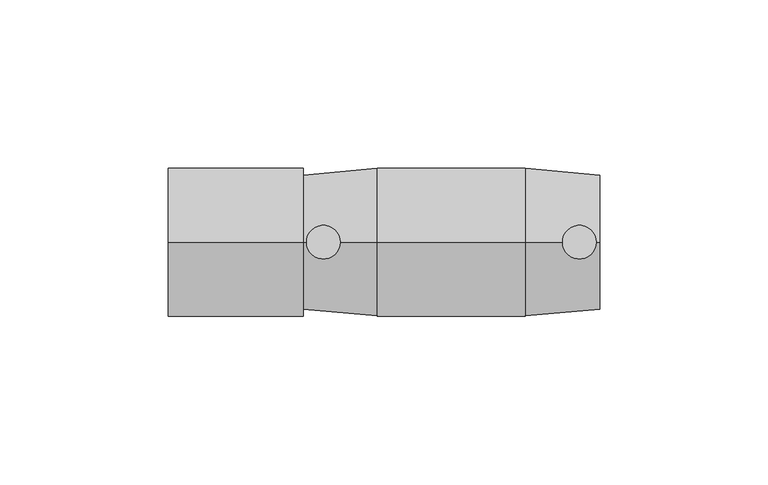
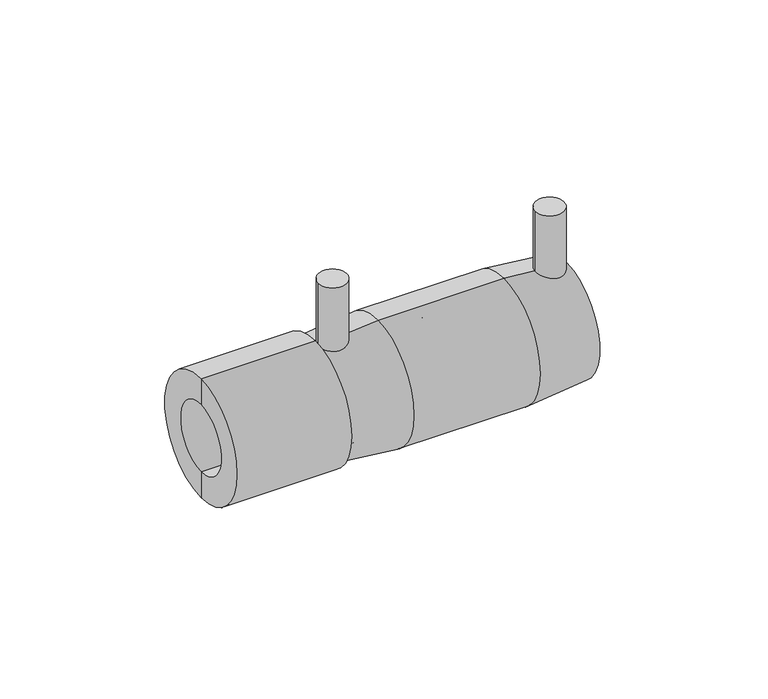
"""IFC4 building model written with IfcOpenShell, lengths in millimetres: pipe fitting geometry, Plumbing_Pipe-Fittings_Plasson_Female-Transition-Coupler_493104N : Plumbing_Pipe-Fittings_Plasson_Female-Transition-Coupler_493104N."""

from ifc_helpers import new_model, si_unit, point, frame, frame_2d, origin, place, context, project, spatial, polyline, circle_curve, trimmed, segment, composite_curve, outline, extrude, source, transform, mapped, element, save
from ifc_brep_helpers import plane_surface, cylinder_surface, revolved_surface, advanced_brep


def pipe_fitting_ef86ea76(model_context):
    return source(origin(), model_context, "Body", "SolidModel", [
        advanced_brep(
        [(-44.0, 0.0, -13.5), (-44.0, 0.0, 13.5), (-44.0, 0.0, 16.0), (-44.0, 0.0, -16.0), (-2.0, 0.0, -13.5), (-2.0, 0.0, 13.5), (-2.0, 0.0, -16.0), (-2.0, 0.0, 16.0)],
        [
            (0, 1, circle_curve(frame((-44.0, 0.0, 0.0), z_axis=(1.0, 0.0, 0.0), x_axis=(0.0, 0.0, 1.0)), 13.5)),
            (1, 2),
            (2, 3, circle_curve(frame((-44.0, 0.0, 0.0), z_axis=(-1.0, 0.0, 0.0), x_axis=(0.0, 0.0, 1.0)), 16.0)),
            (3, 0),
            (1, 0, circle_curve(frame((-44.0, 0.0, 0.0), z_axis=(1.0, 0.0, 0.0), x_axis=(0.0, 0.0, 1.0)), 13.5)),
            (3, 2, circle_curve(frame((-44.0, 0.0, 0.0), z_axis=(-1.0, 0.0, 0.0), x_axis=(0.0, 0.0, 1.0)), 16.0)),
            (4, 5, circle_curve(frame((-2.0, 0.0, 0.0), z_axis=(1.0, 0.0, 0.0), x_axis=(0.0, 0.0, 1.0)), 13.5)),
            (5, 1),
            (0, 4),
            (5, 4, circle_curve(frame((-2.0, 0.0, 0.0), z_axis=(1.0, 0.0, 0.0), x_axis=(0.0, 0.0, 1.0)), 13.5)),
            (6, 7, circle_curve(frame((-2.0, 0.0, 0.0), z_axis=(1.0, 0.0, 0.0), x_axis=(0.0, 0.0, 1.0)), 16.0)),
            (7, 5),
            (4, 6),
            (7, 6, circle_curve(frame((-2.0, 0.0, 0.0), z_axis=(1.0, 0.0, 0.0), x_axis=(0.0, 0.0, 1.0)), 16.0)),
            (2, 7),
            (6, 3),
        ],
        [
            plane_surface(frame((-44.0, 0.0, 0.0), z_axis=(-1.0, 0.0, 0.0), x_axis=(0.0, 0.0, 1.0))),
            revolved_surface(polyline([(-44.0, 0.0, 13.5), (-2.0, 0.0, 13.5)]), (-44.0, 0.0, 0.0), (-1.0, 0.0, 0.0)),
            plane_surface(frame((-2.0, 0.0, 0.0), z_axis=(1.0, 0.0, 0.0), x_axis=(0.0, 0.0, 1.0))),
            cylinder_surface(frame((-44.0, 0.0, 0.0), z_axis=(-1.0, 0.0, 0.0), x_axis=(0.0, 0.0, 1.0)), 16.0),
        ],
        [
            (0, [[1, 2, 3, 4]]),
            (0, [[5, -4, 6, -2]]),
            (1, [[7, 8, -1, 9]]),
            (1, [[10, -9, -5, -8]]),
            (2, [[11, 12, -7, 13]]),
            (2, [[14, -13, -10, -12]]),
            (3, [[-3, 15, -11, 16]]),
            (3, [[-6, -16, -14, -15]]),
        ],
    ),
        advanced_brep(
        [(-44.0, 0.0, -8.75), (-44.0, 0.0, 8.75), (-57.3333333, 0.0, 8.75), (-57.3333333, 0.0, -8.75), (-44.0, 0.0, -22.0), (-44.0, 0.0, 22.0), (-84.0, 0.0, -22.0), (-84.0, 0.0, 22.0), (-84.0, 0.0, -12.5), (-84.0, 0.0, 12.5), (-57.3333333, 0.0, -12.5), (-57.3333333, 0.0, 12.5)],
        [
            (0, 1, circle_curve(frame((-44.0, 0.0, 0.0), z_axis=(1.0, 0.0, 0.0), x_axis=(0.0, 0.0, 1.0)), 8.75)),
            (1, 2),
            (2, 3, circle_curve(frame((-57.3333333, 0.0, 0.0), z_axis=(-1.0, 0.0, 0.0), x_axis=(0.0, 0.0, 1.0)), 8.75)),
            (3, 0),
            (1, 0, circle_curve(frame((-44.0, 0.0, 0.0), z_axis=(1.0, 0.0, 0.0), x_axis=(0.0, 0.0, 1.0)), 8.75)),
            (3, 2, circle_curve(frame((-57.3333333, 0.0, 0.0), z_axis=(-1.0, 0.0, 0.0), x_axis=(0.0, 0.0, 1.0)), 8.75)),
            (4, 5, circle_curve(frame((-44.0, 0.0, 0.0), z_axis=(1.0, 0.0, 0.0), x_axis=(0.0, 0.0, 1.0)), 22.0)),
            (5, 1),
            (0, 4),
            (5, 4, circle_curve(frame((-44.0, 0.0, 0.0), z_axis=(1.0, 0.0, 0.0), x_axis=(0.0, 0.0, 1.0)), 22.0)),
            (6, 7, circle_curve(frame((-84.0, 0.0, 0.0), z_axis=(1.0, 0.0, 0.0), x_axis=(0.0, 0.0, 1.0)), 22.0)),
            (7, 5),
            (4, 6),
            (7, 6, circle_curve(frame((-84.0, 0.0, 0.0), z_axis=(1.0, 0.0, 0.0), x_axis=(0.0, 0.0, 1.0)), 22.0)),
            (8, 9, circle_curve(frame((-84.0, 0.0, 0.0), z_axis=(1.0, 0.0, 0.0), x_axis=(0.0, 0.0, 1.0)), 12.5)),
            (9, 7),
            (6, 8),
            (9, 8, circle_curve(frame((-84.0, 0.0, 0.0), z_axis=(1.0, 0.0, 0.0), x_axis=(0.0, 0.0, 1.0)), 12.5)),
            (10, 11, circle_curve(frame((-57.3333333, 0.0, 0.0), z_axis=(1.0, 0.0, 0.0), x_axis=(0.0, 0.0, 1.0)), 12.5)),
            (11, 9),
            (8, 10),
            (11, 10, circle_curve(frame((-57.3333333, 0.0, 0.0), z_axis=(1.0, 0.0, 0.0), x_axis=(0.0, 0.0, 1.0)), 12.5)),
            (2, 11),
            (10, 3),
        ],
        [
            revolved_surface(polyline([(-57.3333333, 0.0, 8.75), (-44.0, 0.0, 8.75)]), (-57.3333333, 0.0, 0.0), (-1.0, 0.0, 0.0)),
            plane_surface(frame((-44.0, 0.0, 0.0), z_axis=(1.0, 0.0, 0.0), x_axis=(0.0, 0.0, 1.0))),
            cylinder_surface(frame((-57.3333333, 0.0, 0.0), z_axis=(-1.0, 0.0, 0.0), x_axis=(0.0, 0.0, 1.0)), 22.0),
            plane_surface(frame((-84.0, 0.0, 0.0), z_axis=(-1.0, 0.0, 0.0), x_axis=(0.0, 0.0, 1.0))),
            revolved_surface(polyline([(-84.0, 0.0, 12.5), (-57.3333333, 0.0, 12.5)]), (-57.3333333, 0.0, 0.0), (-1.0, 0.0, 0.0)),
            plane_surface(frame((-57.3333333, 0.0, 0.0), z_axis=(-1.0, 0.0, 0.0), x_axis=(0.0, 0.0, 1.0))),
        ],
        [
            (0, [[1, 2, 3, 4]]),
            (0, [[5, -4, 6, -2]]),
            (1, [[7, 8, -1, 9]]),
            (1, [[10, -9, -5, -8]]),
            (2, [[11, 12, -7, 13]]),
            (2, [[14, -13, -10, -12]]),
            (3, [[15, 16, -11, 17]]),
            (3, [[18, -17, -14, -16]]),
            (4, [[19, 20, -15, 21]]),
            (4, [[22, -21, -18, -20]]),
            (5, [[-3, 23, -19, 24]]),
            (5, [[-6, -24, -22, -23]]),
        ],
    ),
        extrude(outline(composite_curve([segment(trimmed(circle_curve(frame_2d((-38.0, 0.0)), 5.0), [point((-43.0, 0.0))], [point((-33.0, 0.0))], False, "CARTESIAN"), True, "CONTINUOUS"), segment(trimmed(circle_curve(frame_2d((-38.0, 0.0)), 5.0), [point((-33.0, 0.0))], [point((-43.0, 0.0))], False, "CARTESIAN"), True, "CONTINUOUS")], self_intersect=False)), frame((0.0, 0.0, 19.0), z_axis=(0.0, 0.0, 1.0), x_axis=(1.0, 0.0, 0.0)), (0.0, 0.0, 1.0), 24.0),
        extrude(outline(composite_curve([segment(trimmed(circle_curve(frame_2d((38.0, 0.0)), 5.0), [point((33.0, 0.0))], [point((43.0, 0.0))], False, "CARTESIAN"), True, "CONTINUOUS"), segment(trimmed(circle_curve(frame_2d((38.0, 0.0)), 5.0), [point((43.0, 0.0))], [point((33.0, 0.0))], False, "CARTESIAN"), True, "CONTINUOUS")], self_intersect=False)), frame((0.0, 0.0, 19.0), z_axis=(0.0, 0.0, 1.0), x_axis=(1.0, 0.0, 0.0)), (0.0, 0.0, 1.0), 24.0),
        advanced_brep(
        [(-2.0, 0.0, -16.0), (-2.0, 0.0, 16.0), (-44.0, 0.0, 16.0), (-44.0, 0.0, -16.0), (44.0, 0.0, -20.0), (44.0, 0.0, 20.0), (44.0, 0.0, 16.0), (44.0, 0.0, -16.0), (-22.0, 0.0, -22.0), (-22.0, 0.0, 22.0), (22.0, 0.0, 22.0), (22.0, 0.0, -22.0), (-44.0, 0.0, 20.0), (-44.0, 0.0, -20.0), (-2.0, 0.0, -13.0), (-2.0, 0.0, 13.0), (2.0, 0.0, -13.0), (2.0, 0.0, 13.0), (2.0, 0.0, -16.0), (2.0, 0.0, 16.0)],
        [
            (0, 1, circle_curve(frame((-2.0, 0.0, 0.0), z_axis=(1.0, 0.0, 0.0), x_axis=(0.0, 0.0, 1.0)), 16.0)),
            (1, 2),
            (2, 3, circle_curve(frame((-44.0, 0.0, 0.0), z_axis=(-1.0, 0.0, 0.0), x_axis=(0.0, 0.0, 1.0)), 16.0)),
            (3, 0),
            (1, 0, circle_curve(frame((-2.0, 0.0, 0.0), z_axis=(1.0, 0.0, 0.0), x_axis=(0.0, 0.0, 1.0)), 16.0)),
            (3, 2, circle_curve(frame((-44.0, 0.0, 0.0), z_axis=(-1.0, 0.0, 0.0), x_axis=(0.0, 0.0, 1.0)), 16.0)),
            (4, 5, circle_curve(frame((44.0, 0.0, 0.0), z_axis=(1.0, 0.0, 0.0), x_axis=(0.0, 0.0, 1.0)), 20.0)),
            (5, 6),
            (6, 7, circle_curve(frame((44.0, 0.0, 0.0), z_axis=(-1.0, 0.0, 0.0), x_axis=(0.0, 0.0, 1.0)), 16.0)),
            (7, 4),
            (5, 4, circle_curve(frame((44.0, 0.0, 0.0), z_axis=(1.0, 0.0, 0.0), x_axis=(0.0, 0.0, 1.0)), 20.0)),
            (7, 6, circle_curve(frame((44.0, 0.0, 0.0), z_axis=(-1.0, 0.0, 0.0), x_axis=(0.0, 0.0, 1.0)), 16.0)),
            (8, 9, circle_curve(frame((-22.0, 0.0, 0.0), z_axis=(1.0, 0.0, 0.0), x_axis=(0.0, 0.0, 1.0)), 22.0)),
            (9, 10),
            (10, 11, circle_curve(frame((22.0, 0.0, 0.0), z_axis=(-1.0, 0.0, 0.0), x_axis=(0.0, 0.0, 1.0)), 22.0)),
            (11, 8),
            (9, 8, circle_curve(frame((-22.0, 0.0, 0.0), z_axis=(1.0, 0.0, 0.0), x_axis=(0.0, 0.0, 1.0)), 22.0)),
            (11, 10, circle_curve(frame((22.0, 0.0, 0.0), z_axis=(-1.0, 0.0, 0.0), x_axis=(0.0, 0.0, 1.0)), 22.0)),
            (2, 12),
            (12, 13, circle_curve(frame((-44.0, 0.0, 0.0), z_axis=(-1.0, 0.0, 0.0), x_axis=(0.0, 0.0, 1.0)), 20.0)),
            (13, 3),
            (13, 12, circle_curve(frame((-44.0, 0.0, 0.0), z_axis=(-1.0, 0.0, 0.0), x_axis=(0.0, 0.0, 1.0)), 20.0)),
            (10, 5),
            (4, 11),
            (12, 9),
            (8, 13),
            (14, 15, circle_curve(frame((-2.0, 0.0, 0.0), z_axis=(1.0, 0.0, 0.0), x_axis=(0.0, 0.0, 1.0)), 13.0)),
            (15, 1),
            (0, 14),
            (15, 14, circle_curve(frame((-2.0, 0.0, 0.0), z_axis=(1.0, 0.0, 0.0), x_axis=(0.0, 0.0, 1.0)), 13.0)),
            (16, 17, circle_curve(frame((2.0, 0.0, 0.0), z_axis=(1.0, 0.0, 0.0), x_axis=(0.0, 0.0, 1.0)), 13.0)),
            (17, 15),
            (14, 16),
            (17, 16, circle_curve(frame((2.0, 0.0, 0.0), z_axis=(1.0, 0.0, 0.0), x_axis=(0.0, 0.0, 1.0)), 13.0)),
            (18, 19, circle_curve(frame((2.0, 0.0, 0.0), z_axis=(1.0, 0.0, 0.0), x_axis=(0.0, 0.0, 1.0)), 16.0)),
            (19, 17),
            (16, 18),
            (19, 18, circle_curve(frame((2.0, 0.0, 0.0), z_axis=(1.0, 0.0, 0.0), x_axis=(0.0, 0.0, 1.0)), 16.0)),
            (6, 19),
            (18, 7),
        ],
        [
            revolved_surface(polyline([(-44.0, 0.0, 16.0), (-2.0, 0.0, 16.0)]), (-44.0, 0.0, 0.0), (-1.0, 0.0, 0.0)),
            plane_surface(frame((44.0, 0.0, 0.0), z_axis=(1.0, 0.0, 0.0), x_axis=(0.0, 0.0, 1.0))),
            cylinder_surface(frame((-44.0, 0.0, 0.0), z_axis=(-1.0, 0.0, 0.0), x_axis=(0.0, 0.0, 1.0)), 22.0),
            plane_surface(frame((-44.0, 0.0, 0.0), z_axis=(-1.0, 0.0, 0.0), x_axis=(0.0, 0.0, 1.0))),
            revolved_surface(polyline([(44.0, 0.0, 20.0), (22.0, 0.0, 22.0)]), (-44.0, 0.0, 0.0), (-1.0, 0.0, 0.0)),
            revolved_surface(polyline([(-22.0, 0.0, 22.0), (-44.0, 0.0, 20.0)]), (-44.0, 0.0, 0.0), (-1.0, 0.0, 0.0)),
            plane_surface(frame((-2.0, 0.0, 0.0), z_axis=(-1.0, 0.0, 0.0), x_axis=(0.0, 0.0, 1.0))),
            revolved_surface(polyline([(-2.0, 0.0, 13.0), (2.0, 0.0, 13.0)]), (-44.0, 0.0, 0.0), (-1.0, 0.0, 0.0)),
            plane_surface(frame((2.0, 0.0, 0.0), z_axis=(1.0, 0.0, 0.0), x_axis=(0.0, 0.0, 1.0))),
            revolved_surface(polyline([(2.0, 0.0, 16.0), (44.0, 0.0, 16.0)]), (-44.0, 0.0, 0.0), (-1.0, 0.0, 0.0)),
        ],
        [
            (0, [[1, 2, 3, 4]]),
            (0, [[5, -4, 6, -2]]),
            (1, [[7, 8, 9, 10]]),
            (1, [[11, -10, 12, -8]]),
            (2, [[13, 14, 15, 16]]),
            (2, [[17, -16, 18, -14]]),
            (3, [[-3, 19, 20, 21]]),
            (3, [[-6, -21, 22, -19]]),
            (4, [[-15, 23, -7, 24]]),
            (4, [[-18, -24, -11, -23]]),
            (5, [[-20, 25, -13, 26]]),
            (5, [[-22, -26, -17, -25]]),
            (6, [[27, 28, -1, 29]]),
            (6, [[30, -29, -5, -28]]),
            (7, [[31, 32, -27, 33]]),
            (7, [[34, -33, -30, -32]]),
            (8, [[35, 36, -31, 37]]),
            (8, [[38, -37, -34, -36]]),
            (9, [[-9, 39, -35, 40]]),
            (9, [[-12, -40, -38, -39]]),
        ],
    ),
    ])


if __name__ == "__main__":
    model = new_model("IFC4")
    model_context = context("Model", 3, world=origin())
    ifc_project = project(units=[si_unit("LENGTHUNIT", "METRE", prefix="MILLI")], contexts=[model_context])
    site = spatial("IfcSite", under=ifc_project)
    building = spatial("IfcBuilding", under=site)
    placement = place(None, origin())
    pipe_fitting_shape = pipe_fitting_ef86ea76(model_context)
    element("IfcPipeFitting", 1, ObjectType="Plumbing_Pipe-Fittings_Plasson_Female-Transition-Coupler_493104N : Plumbing_Pipe-Fittings_Plasson_Female-Transition-Coupler_493104N", at=placement, inside=building, context=model_context, shape_type="MappedRepresentation", body=[
        mapped(pipe_fitting_shape, transform((0.0, 0.0, 0.0), x_axis=(1.0, 0.0, 0.0), y_axis=(0.0, 1.0, 0.0), z_axis=(0.0, 0.0, 1.0))),
    ])
    save(model, "model.ifc")
